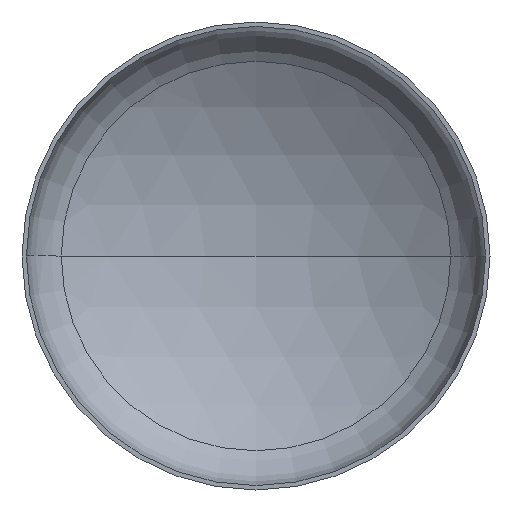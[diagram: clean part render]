
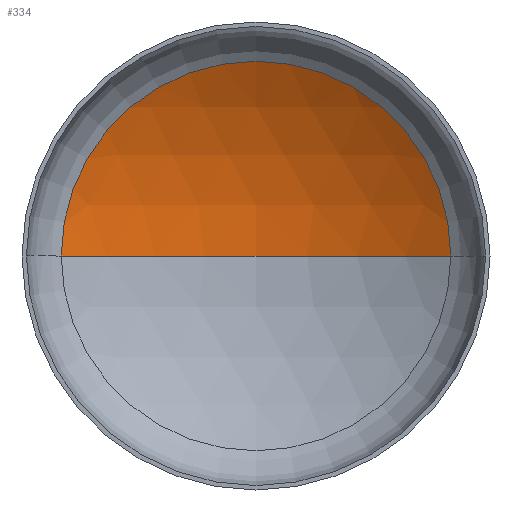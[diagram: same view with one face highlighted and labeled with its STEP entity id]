
A CAD part, front view. The second image highlights one B-rep face of the part: STEP entity #334.
In plain terms, the highlighted spherical face has radius 1600 mm.
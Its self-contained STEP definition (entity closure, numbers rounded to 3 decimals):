
#7 = EDGE_LOOP ( 'NONE', ( #311, #382, #98 ) ) ;
#9 = AXIS2_PLACEMENT_3D ( 'NONE', #210, #99, #154 ) ;
#18 = AXIS2_PLACEMENT_3D ( 'NONE', #170, #177, #310 ) ;
#20 = VERTEX_POINT ( 'NONE', #246 ) ;
#50 = DIRECTION ( 'NONE',  ( 1., 0., 0. ) ) ;
#74 = AXIS2_PLACEMENT_3D ( 'NONE', #253, #278, #277 ) ;
#98 = ORIENTED_EDGE ( 'NONE', *, *, #171, .T. ) ;
#99 = DIRECTION ( 'NONE',  ( 0., 0., -1. ) ) ;
#119 = VERTEX_POINT ( 'NONE', #329 ) ;
#142 = VERTEX_POINT ( 'NONE', #325 ) ;
#154 = DIRECTION ( 'NONE',  ( -1., 0., 0. ) ) ;
#158 = CARTESIAN_POINT ( 'NONE',  ( 0., -1041.753, 0. ) ) ;
#161 = DIRECTION ( 'NONE',  ( 0., 0., 1. ) ) ;
#170 = CARTESIAN_POINT ( 'NONE',  ( 0., -1041.753, 0. ) ) ;
#171 = EDGE_CURVE ( 'NONE', #20, #142, #226, .T. ) ;
#177 = DIRECTION ( 'NONE',  ( 0., 0., -1. ) ) ;
#205 = FACE_OUTER_BOUND ( 'NONE', #7, .T. ) ;
#210 = CARTESIAN_POINT ( 'NONE',  ( 0., -1041.753, 0. ) ) ;
#226 = CIRCLE ( 'NONE', #74, 832.248 ) ;
#246 = CARTESIAN_POINT ( 'NONE',  ( 832.248, 324.762, 0. ) ) ;
#253 = CARTESIAN_POINT ( 'NONE',  ( 0., 324.762, 0. ) ) ;
#257 = CIRCLE ( 'NONE', #354, 1600. ) ;
#262 = CIRCLE ( 'NONE', #9, 1600. ) ;
#277 = DIRECTION ( 'NONE',  ( 1., 0., 0. ) ) ;
#278 = DIRECTION ( 'NONE',  ( 0., -1., 0. ) ) ;
#282 = SPHERICAL_SURFACE ( 'NONE', #18, 1600. ) ;
#310 = DIRECTION ( 'NONE',  ( -1., 0., 0. ) ) ;
#311 = ORIENTED_EDGE ( 'NONE', *, *, #358, .F. ) ;
#325 = CARTESIAN_POINT ( 'NONE',  ( -832.248, 324.762, 0. ) ) ;
#329 = CARTESIAN_POINT ( 'NONE',  ( 0., 558.247, 0. ) ) ;
#334 = ADVANCED_FACE ( 'NONE', ( #205 ), #282, .F. ) ;
#354 = AXIS2_PLACEMENT_3D ( 'NONE', #158, #161, #50 ) ;
#357 = EDGE_CURVE ( 'NONE', #119, #20, #262, .T. ) ;
#358 = EDGE_CURVE ( 'NONE', #119, #142, #257, .T. ) ;
#382 = ORIENTED_EDGE ( 'NONE', *, *, #357, .T. ) ;
